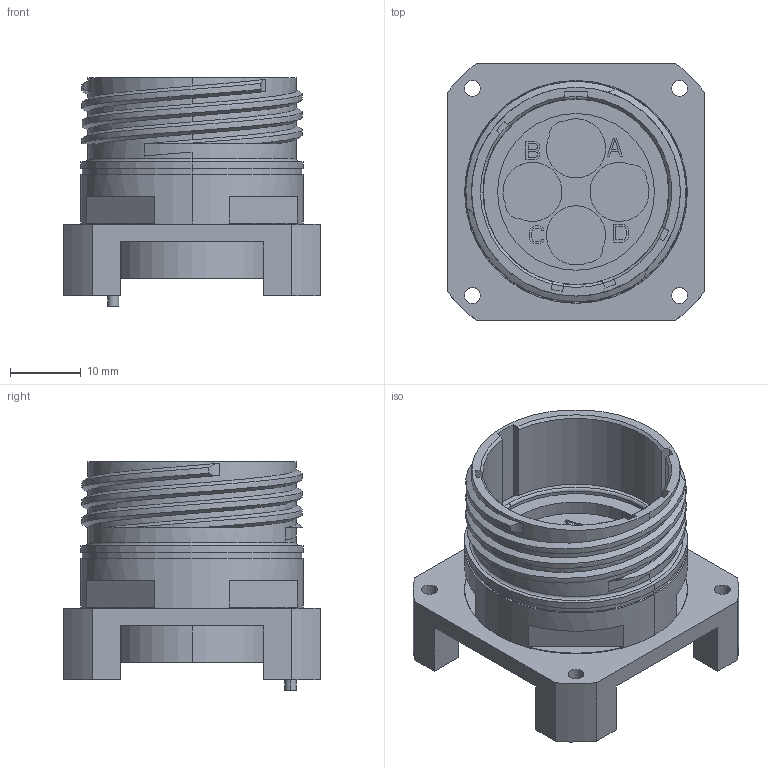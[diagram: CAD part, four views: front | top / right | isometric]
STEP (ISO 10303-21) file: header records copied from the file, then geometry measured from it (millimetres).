
FILE_DESCRIPTION((''),'2;1');
FILE_NAME('C-1738974-3','2011-06-07T',('workeradm'),('Tyco Electronics Ltd.'),'PRO/ENGINEER BY PARAMETRIC TECHNOLOGY CORPORATION, 2009300','PRO/ENGINEER BY PARAMETRIC TECHNOLOGY CORPORATION, 2009300','');
FILE_SCHEMA(('AUTOMOTIVE_DESIGN { 1 0 10303 214 1 1 1 1 }'));
Length unit declared in the file: millimetre
Products named in the file (1): C-1738974-3
Bounding box: 36.46 x 36.46 x 32.45 mm (x, y, z)
Volume: 13413.9 mm3; surface area: 8632.9 mm2
Topology: 1 solids, 1 shells, 298 faces, 798 edges, 531 vertices
Faces by surface type: plane 200, cylinder 73, cone 10, bspline 9, torus 6
Entity records: 10886 total; most frequent: CARTESIAN_POINT 3153, ORIENTED_EDGE 1596, DIRECTION 1472, EDGE_CURVE 798, VECTOR 560, LINE 560, VERTEX_POINT 531, AXIS2_PLACEMENT_3D 456
